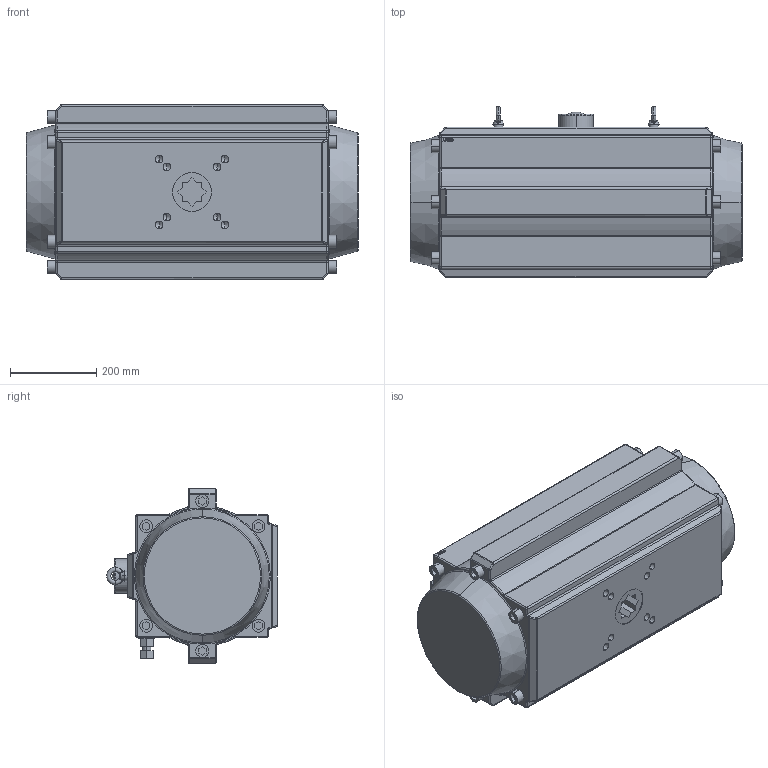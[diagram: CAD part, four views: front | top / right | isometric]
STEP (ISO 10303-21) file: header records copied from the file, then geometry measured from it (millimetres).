
FILE_DESCRIPTION (( 'STEP AP203' ), '1' );
FILE_NAME ('AP300.STEP', '2020-04-08T11:55:32', ( '' ), ( '' ), 'SwSTEP 2.0', 'SolidWorks 2017', '' );
FILE_SCHEMA (( 'CONFIG_CONTROL_DESIGN' ));
Length unit declared in the file: millimetre
Products named in the file (1): AP300
Bounding box: 769 x 396 x 406 mm (x, y, z)
Volume: 75071597.7 mm3; surface area: 1263679.7 mm2
Topology: 1 solids, 1 shells, 650 faces, 1549 edges, 925 vertices
Faces by surface type: plane 241, cylinder 172, bspline 79, cone 76, torus 64, sphere 18
Entity records: 23174 total; most frequent: CARTESIAN_POINT 8680, ORIENTED_EDGE 3002, DIRECTION 2933, EDGE_CURVE 1501, AXIS2_PLACEMENT_3D 1070, VERTEX_POINT 925, VECTOR 793, LINE 793
